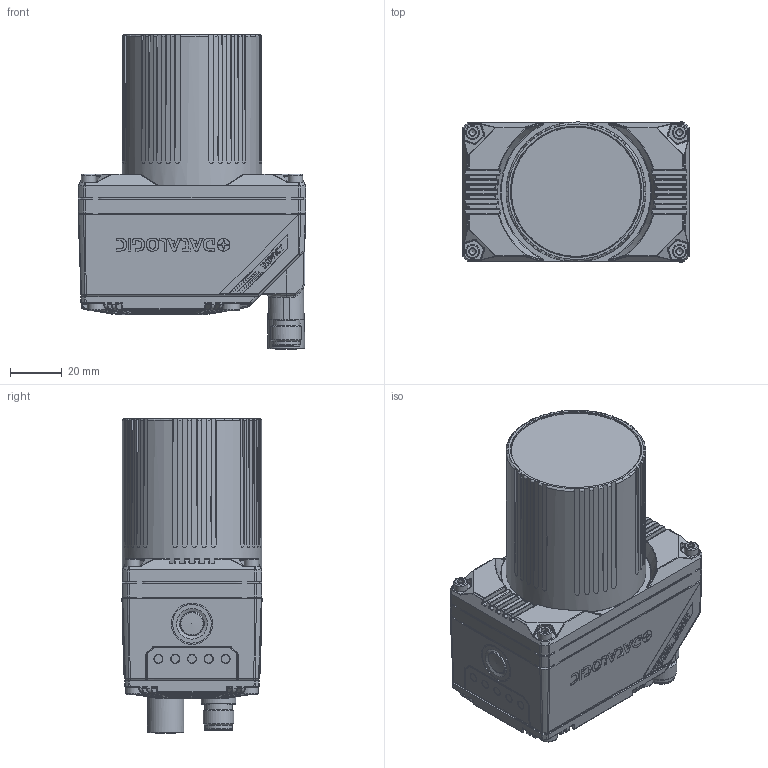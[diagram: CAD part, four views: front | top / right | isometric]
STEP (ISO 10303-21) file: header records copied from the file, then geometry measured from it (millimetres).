
FILE_DESCRIPTION(/* description */ (''),/* implementation_level */ '2;1');
FILE_NAME(/* name */ 'AP035915_00-P2X C-Mount bicchiere corto 90_.stp',/* time_stamp */ '2022-03-16T16:38:21+01:00',/* author */ (''),/* organization */ (''),/* preprocessor_version */ 'ST-DEVELOPER v16.7',/* originating_system */ 'SIEMENS PLM Software NX 1946',/* authorisation */ '');
FILE_SCHEMA (('AUTOMOTIVE_DESIGN { 1 0 10303 214 3 1 1 1 }'));
Products named in the file (1): FGutB01403CDtyyo
Bounding box: 88 x 54.2 x 121.71 mm (x, y, z)
Volume: 352922.9 mm3; surface area: 50132.5 mm2
Topology: 1 solids, 14 shells, 3200 faces, 7594 edges, 4422 vertices
Faces by surface type: plane 1272, cylinder 865, bspline 451, torus 187, cone 171, sphere 170, extrusion 84
Full cylindrical faces by diameter (mm): 0.6 x7, 3.2 x5, 3.3 x9, 3.5 x5, 5.5 x4, 6.2 x4, 7 x3, 9.5 x2, 10.5 x1, 10.7 x1, 10.8 x1, 11.15 x1, 11.85 x1, 12.2 x1, 13.5 x2, 14 x1, 15 x1, 16 x1, 46 x1, 48 x1, 50 x1, 50.2 x1, 50.4 x1, 54 x1
Entity records: 120907 total; most frequent: CARTESIAN_POINT 44050, ORIENTED_EDGE 14456, DIRECTION 13876, EDGE_CURVE 7228, AXIS2_PLACEMENT_3D 5361, VERTEX_POINT 4375, EDGE_LOOP 3542, ADVANCED_FACE 3197
